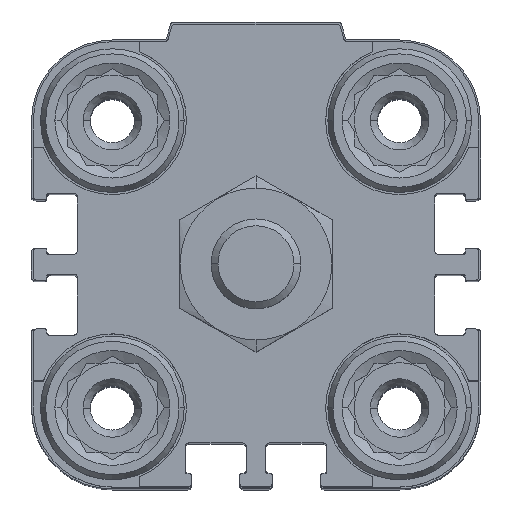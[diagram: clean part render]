
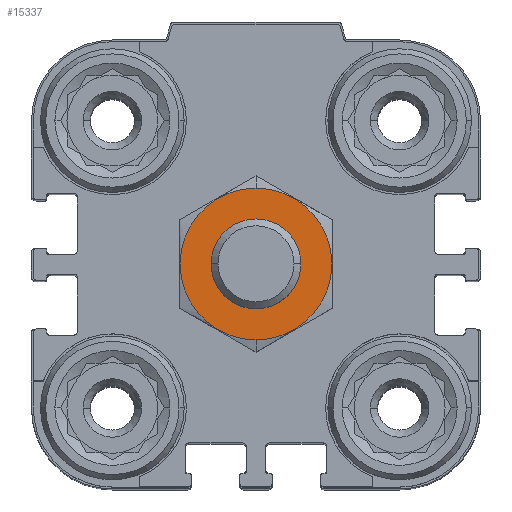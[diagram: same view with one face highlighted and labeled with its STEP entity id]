
A CAD part, top view. The second image highlights one B-rep face of the part: STEP entity #15337.
In plain terms, the highlighted planar face has unit normal (0, 0, 1).
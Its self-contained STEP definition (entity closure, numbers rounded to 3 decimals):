
#253 = CARTESIAN_POINT ( 'NONE',  ( 0., 0., 15. ) ) ;
#718 = DIRECTION ( 'NONE',  ( 0., -1., 0. ) ) ;
#2240 = CARTESIAN_POINT ( 'NONE',  ( 0., -5., 15. ) ) ;
#2339 = FACE_BOUND ( 'NONE', #22365, .T. ) ;
#2750 = CARTESIAN_POINT ( 'NONE',  ( 0., 0., 15. ) ) ;
#4050 = EDGE_CURVE ( 'NONE', #20614, #11856, #9663, .T. ) ;
#5206 = CARTESIAN_POINT ( 'NONE',  ( 0., 0., 15. ) ) ;
#6136 = ORIENTED_EDGE ( 'NONE', *, *, #8397, .T. ) ;
#6731 = DIRECTION ( 'NONE',  ( 0., -1., 0. ) ) ;
#8397 = EDGE_CURVE ( 'NONE', #20679, #8712, #8470, .T. ) ;
#8470 = CIRCLE ( 'NONE', #17729, 5. ) ;
#8712 = VERTEX_POINT ( 'NONE', #13948 ) ;
#8829 = AXIS2_PLACEMENT_3D ( 'NONE', #10968, #14920, #12949 ) ;
#9459 = AXIS2_PLACEMENT_3D ( 'NONE', #2750, #15177, #13094 ) ;
#9540 = FACE_OUTER_BOUND ( 'NONE', #11954, .T. ) ;
#9663 = CIRCLE ( 'NONE', #19295, 8.45 ) ;
#9764 = EDGE_CURVE ( 'NONE', #8712, #20679, #20346, .T. ) ;
#9831 = CIRCLE ( 'NONE', #9459, 8.45 ) ;
#10968 = CARTESIAN_POINT ( 'NONE',  ( 0., 0., 15. ) ) ;
#11296 = CARTESIAN_POINT ( 'NONE',  ( 0., 8.45, 15. ) ) ;
#11640 = ORIENTED_EDGE ( 'NONE', *, *, #9764, .T. ) ;
#11856 = VERTEX_POINT ( 'NONE', #22813 ) ;
#11954 = EDGE_LOOP ( 'NONE', ( #20982, #13450 ) ) ;
#12561 = DIRECTION ( 'NONE',  ( 0., -1., 0. ) ) ;
#12915 = CARTESIAN_POINT ( 'NONE',  ( 0., 0., 15. ) ) ;
#12949 = DIRECTION ( 'NONE',  ( 0., -1., 0. ) ) ;
#13030 = PLANE ( 'NONE',  #19711 ) ;
#13094 = DIRECTION ( 'NONE',  ( 0., -1., 0. ) ) ;
#13450 = ORIENTED_EDGE ( 'NONE', *, *, #4050, .F. ) ;
#13948 = CARTESIAN_POINT ( 'NONE',  ( 0., 5., 15. ) ) ;
#14920 = DIRECTION ( 'NONE',  ( 0., 0., -1. ) ) ;
#15177 = DIRECTION ( 'NONE',  ( 0., 0., -1. ) ) ;
#15337 = ADVANCED_FACE ( 'NONE', ( #9540, #2339 ), #13030, .F. ) ;
#16276 = DIRECTION ( 'NONE',  ( 0., 0., -1. ) ) ;
#17729 = AXIS2_PLACEMENT_3D ( 'NONE', #12915, #16276, #12561 ) ;
#19036 = DIRECTION ( 'NONE',  ( 0., 0., -1. ) ) ;
#19295 = AXIS2_PLACEMENT_3D ( 'NONE', #5206, #19036, #6731 ) ;
#19711 = AXIS2_PLACEMENT_3D ( 'NONE', #253, #21963, #718 ) ;
#20346 = CIRCLE ( 'NONE', #8829, 5. ) ;
#20614 = VERTEX_POINT ( 'NONE', #11296 ) ;
#20679 = VERTEX_POINT ( 'NONE', #2240 ) ;
#20982 = ORIENTED_EDGE ( 'NONE', *, *, #22565, .F. ) ;
#21963 = DIRECTION ( 'NONE',  ( 0., 0., -1. ) ) ;
#22365 = EDGE_LOOP ( 'NONE', ( #11640, #6136 ) ) ;
#22565 = EDGE_CURVE ( 'NONE', #11856, #20614, #9831, .T. ) ;
#22813 = CARTESIAN_POINT ( 'NONE',  ( 0., -8.45, 15. ) ) ;
